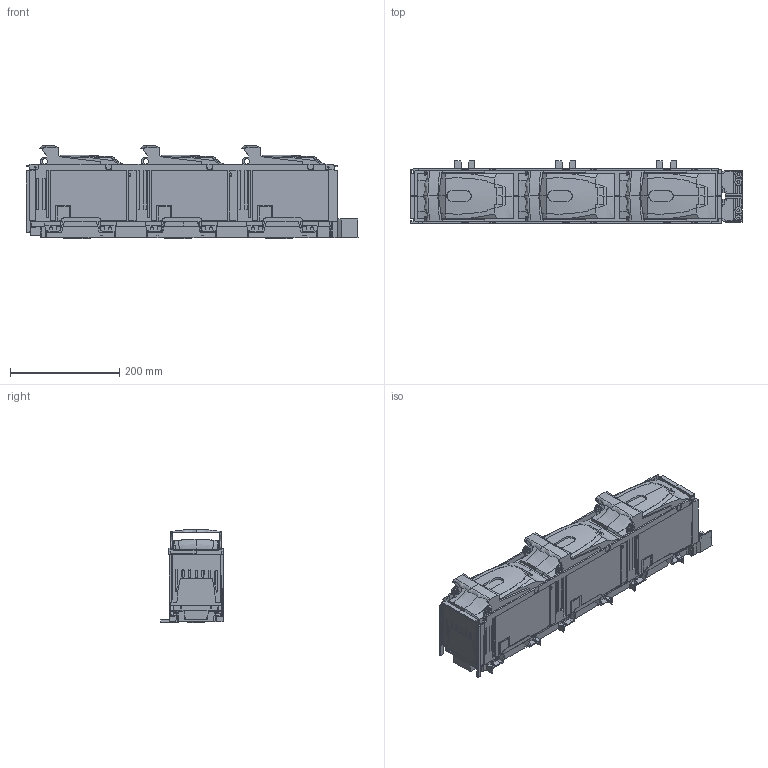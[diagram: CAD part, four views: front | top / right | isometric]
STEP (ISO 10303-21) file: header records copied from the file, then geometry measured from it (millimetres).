
FILE_DESCRIPTION(/* description */ (''),/* implementation_level */ '2;1');
FILE_NAME(/* name */ '63-177582-002_A01_1-ARS 400-1-NR.stp',/* time_stamp */ '2021-12-30T13:42:15+01:00',/* author */ (''),/* organization */ (''),/* preprocessor_version */ 'ST-DEVELOPER v18.1',/* originating_system */ 'SIEMENS PLM Software NX 1957',/* authorisation */ '');
FILE_SCHEMA (('AUTOMOTIVE_DESIGN { 1 0 10303 214 3 1 1 1 }'));
Products named in the file (1): 710_2CF45DB6y1jm
Bounding box: 608.22 x 115.08 x 170.4 mm (x, y, z)
Volume: 7443188.6 mm3; surface area: 439757.2 mm2
Topology: 1 solids, 8 shells, 2278 faces, 6729 edges, 4447 vertices
Faces by surface type: plane 1518, cylinder 328, bspline 305, cone 77, torus 36, sphere 14
Full cylindrical faces by diameter (mm): 1.7 x12, 3.5 x4, 3.7 x4, 14 x1
Entity records: 115284 total; most frequent: CARTESIAN_POINT 58323, ORIENTED_EDGE 13298, DIRECTION 9827, EDGE_CURVE 6649, LINE 4511, VECTOR 4511, VERTEX_POINT 4425, AXIS2_PLACEMENT_3D 2658
